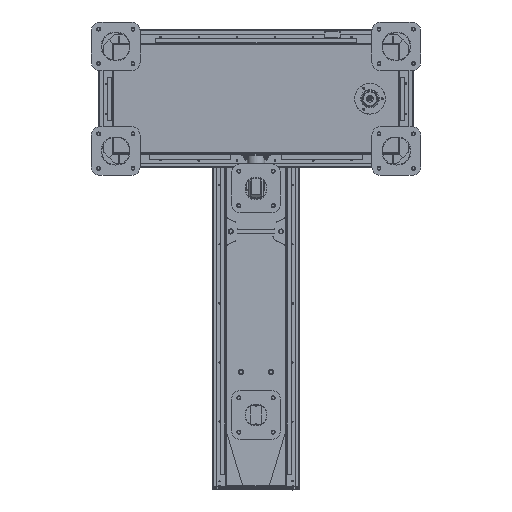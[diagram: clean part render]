
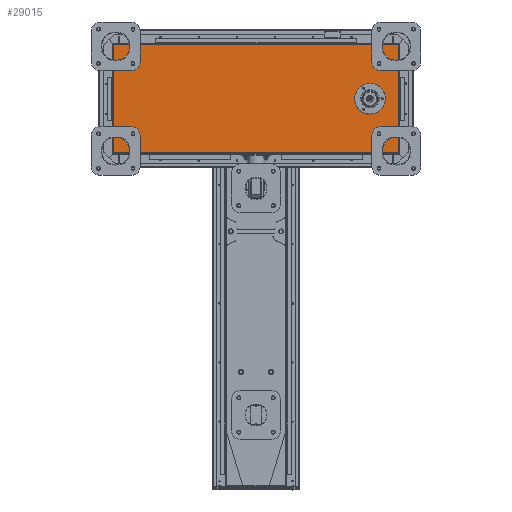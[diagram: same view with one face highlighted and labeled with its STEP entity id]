
A CAD part, front view. The second image highlights one B-rep face of the part: STEP entity #29015.
In plain terms, the highlighted planar face has unit normal (-0.018, -1, 0).
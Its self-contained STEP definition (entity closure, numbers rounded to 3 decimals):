
#74 = EDGE_LOOP ( 'NONE', ( #97794, #16340 ) ) ;
#2959 = CIRCLE ( 'NONE', #71801, 2.45 ) ;
#4845 = PLANE ( 'NONE',  #27759 ) ;
#6348 = DIRECTION ( 'NONE',  ( 0.017, 1., 0. ) ) ;
#6443 = VERTEX_POINT ( 'NONE', #111874 ) ;
#8103 = DIRECTION ( 'NONE',  ( 0.017, 1., 0. ) ) ;
#8562 = FACE_BOUND ( 'NONE', #76587, .T. ) ;
#10406 = CARTESIAN_POINT ( 'NONE',  ( 373.748, -160.243, 36.806 ) ) ;
#10487 = CARTESIAN_POINT ( 'NONE',  ( 437.489, -161.355, 0. ) ) ;
#10860 = DIRECTION ( 'NONE',  ( -1., 0.017, 0. ) ) ;
#11760 = CARTESIAN_POINT ( 'NONE',  ( 397.445, -160.656, 0. ) ) ;
#12829 = EDGE_LOOP ( 'NONE', ( #110544, #77114 ) ) ;
#13140 = CARTESIAN_POINT ( 'NONE',  ( 376.198, -160.285, 36.806 ) ) ;
#13293 = DIRECTION ( 'NONE',  ( -1., 0.017, 0. ) ) ;
#13816 = AXIS2_PLACEMENT_3D ( 'NONE', #49724, #8103, #94845 ) ;
#15215 = VERTEX_POINT ( 'NONE', #36706 ) ;
#16340 = ORIENTED_EDGE ( 'NONE', *, *, #53876, .T. ) ;
#16477 = AXIS2_PLACEMENT_3D ( 'NONE', #11760, #88791, #68217 ) ;
#16681 = ORIENTED_EDGE ( 'NONE', *, *, #42299, .F. ) ;
#16822 = LINE ( 'NONE', #122435, #36356 ) ;
#17802 = EDGE_CURVE ( 'NONE', #100472, #47032, #76137, .T. ) ;
#18074 = VERTEX_POINT ( 'NONE', #118280 ) ;
#18364 = EDGE_CURVE ( 'NONE', #15215, #74364, #54709, .T. ) ;
#19514 = DIRECTION ( 'NONE',  ( 0., 0., -1. ) ) ;
#19976 = EDGE_CURVE ( 'NONE', #37217, #68139, #45341, .T. ) ;
#20638 = LINE ( 'NONE', #115951, #120070 ) ;
#20952 = ORIENTED_EDGE ( 'NONE', *, *, #81157, .T. ) ;
#23893 = AXIS2_PLACEMENT_3D ( 'NONE', #119896, #33538, #62205 ) ;
#27295 = VERTEX_POINT ( 'NONE', #66083 ) ;
#27759 = AXIS2_PLACEMENT_3D ( 'NONE', #52453, #33892, #13293 ) ;
#29015 = ADVANCED_FACE ( 'NONE', ( #8562, #121527, #99005, #79328, #105011 ), #4845, .F. ) ;
#30621 = CARTESIAN_POINT ( 'NONE',  ( 376.198, -160.285, -36.806 ) ) ;
#33538 = DIRECTION ( 'NONE',  ( 0.017, 1., 0. ) ) ;
#33892 = DIRECTION ( 'NONE',  ( 0.017, 1., 0. ) ) ;
#36356 = VECTOR ( 'NONE', #56336, 1000. ) ;
#36380 = CIRCLE ( 'NONE', #89662, 30.25 ) ;
#36706 = CARTESIAN_POINT ( 'NONE',  ( 373.748, -160.243, -36.806 ) ) ;
#37217 = VERTEX_POINT ( 'NONE', #124791 ) ;
#38447 = EDGE_CURVE ( 'NONE', #68139, #37217, #56831, .T. ) ;
#39143 = CIRCLE ( 'NONE', #23893, 2.45 ) ;
#40457 = EDGE_CURVE ( 'NONE', #74364, #15215, #52378, .T. ) ;
#42077 = LINE ( 'NONE', #83359, #43512 ) ;
#42299 = EDGE_CURVE ( 'NONE', #18074, #92966, #43917, .T. ) ;
#43018 = DIRECTION ( 'NONE',  ( -1., 0.017, 0. ) ) ;
#43512 = VECTOR ( 'NONE', #93075, 1000. ) ;
#43917 = LINE ( 'NONE', #112926, #117764 ) ;
#45341 = CIRCLE ( 'NONE', #99196, 2.45 ) ;
#46717 = ORIENTED_EDGE ( 'NONE', *, *, #86391, .F. ) ;
#47032 = VERTEX_POINT ( 'NONE', #89423 ) ;
#48312 = CARTESIAN_POINT ( 'NONE',  ( 367.199, -160.128, 0. ) ) ;
#49286 = ORIENTED_EDGE ( 'NONE', *, *, #19976, .T. ) ;
#49724 = CARTESIAN_POINT ( 'NONE',  ( 376.198, -160.285, 36.806 ) ) ;
#50372 = CARTESIAN_POINT ( 'NONE',  ( 397.445, -160.656, 0. ) ) ;
#50703 = DIRECTION ( 'NONE',  ( 0.017, 1., 0. ) ) ;
#52378 = CIRCLE ( 'NONE', #85932, 2.45 ) ;
#52453 = CARTESIAN_POINT ( 'NONE',  ( 499.5, -162.438, 188. ) ) ;
#52707 = CARTESIAN_POINT ( 'NONE',  ( 439.938, -161.398, 0. ) ) ;
#53876 = EDGE_CURVE ( 'NONE', #27295, #85710, #2959, .T. ) ;
#54414 = EDGE_LOOP ( 'NONE', ( #20952, #16681, #46717, #70286 ) ) ;
#54709 = CIRCLE ( 'NONE', #60230, 2.45 ) ;
#56336 = DIRECTION ( 'NONE',  ( 1., -0.017, 0. ) ) ;
#56831 = CIRCLE ( 'NONE', #13816, 2.45 ) ;
#57164 = CARTESIAN_POINT ( 'NONE',  ( -495.57, -145.069, 188. ) ) ;
#59945 = EDGE_CURVE ( 'NONE', #47032, #100472, #36380, .T. ) ;
#60230 = AXIS2_PLACEMENT_3D ( 'NONE', #99636, #50703, #78925 ) ;
#62205 = DIRECTION ( 'NONE',  ( -1., 0.017, 0. ) ) ;
#65420 = ORIENTED_EDGE ( 'NONE', *, *, #38447, .T. ) ;
#66083 = CARTESIAN_POINT ( 'NONE',  ( 442.388, -161.441, 0. ) ) ;
#68139 = VERTEX_POINT ( 'NONE', #10406 ) ;
#68217 = DIRECTION ( 'NONE',  ( -1., 0.017, 0. ) ) ;
#70286 = ORIENTED_EDGE ( 'NONE', *, *, #87088, .T. ) ;
#71801 = AXIS2_PLACEMENT_3D ( 'NONE', #52707, #6348, #121703 ) ;
#74364 = VERTEX_POINT ( 'NONE', #78941 ) ;
#76137 = CIRCLE ( 'NONE', #16477, 30.25 ) ;
#76587 = EDGE_LOOP ( 'NONE', ( #114355, #117077 ) ) ;
#77114 = ORIENTED_EDGE ( 'NONE', *, *, #59945, .T. ) ;
#77948 = DIRECTION ( 'NONE',  ( -1., 0.017, 0. ) ) ;
#78925 = DIRECTION ( 'NONE',  ( -1., 0.017, 0. ) ) ;
#78941 = CARTESIAN_POINT ( 'NONE',  ( 378.648, -160.328, -36.806 ) ) ;
#79328 = FACE_BOUND ( 'NONE', #12829, .T. ) ;
#81157 = EDGE_CURVE ( 'NONE', #6443, #92966, #42077, .T. ) ;
#82180 = VERTEX_POINT ( 'NONE', #57164 ) ;
#83359 = CARTESIAN_POINT ( 'NONE',  ( 499.5, -162.438, -188. ) ) ;
#84243 = DIRECTION ( 'NONE',  ( 0., 0., -1. ) ) ;
#85710 = VERTEX_POINT ( 'NONE', #10487 ) ;
#85932 = AXIS2_PLACEMENT_3D ( 'NONE', #30621, #97225, #10860 ) ;
#86391 = EDGE_CURVE ( 'NONE', #82180, #18074, #16822, .T. ) ;
#87088 = EDGE_CURVE ( 'NONE', #82180, #6443, #20638, .T. ) ;
#88791 = DIRECTION ( 'NONE',  ( 0.017, 1., 0. ) ) ;
#89423 = CARTESIAN_POINT ( 'NONE',  ( 427.69, -161.184, 0. ) ) ;
#89662 = AXIS2_PLACEMENT_3D ( 'NONE', #50372, #121492, #77948 ) ;
#90199 = DIRECTION ( 'NONE',  ( 0.017, 1., 0. ) ) ;
#92966 = VERTEX_POINT ( 'NONE', #122738 ) ;
#93075 = DIRECTION ( 'NONE',  ( 1., -0.017, 0. ) ) ;
#94845 = DIRECTION ( 'NONE',  ( -1., 0.017, 0. ) ) ;
#97225 = DIRECTION ( 'NONE',  ( 0.017, 1., 0. ) ) ;
#97794 = ORIENTED_EDGE ( 'NONE', *, *, #102186, .T. ) ;
#99005 = FACE_BOUND ( 'NONE', #74, .T. ) ;
#99196 = AXIS2_PLACEMENT_3D ( 'NONE', #13140, #90199, #43018 ) ;
#99636 = CARTESIAN_POINT ( 'NONE',  ( 376.198, -160.285, -36.806 ) ) ;
#100472 = VERTEX_POINT ( 'NONE', #48312 ) ;
#102186 = EDGE_CURVE ( 'NONE', #85710, #27295, #39143, .T. ) ;
#105011 = FACE_OUTER_BOUND ( 'NONE', #54414, .T. ) ;
#110544 = ORIENTED_EDGE ( 'NONE', *, *, #17802, .T. ) ;
#111874 = CARTESIAN_POINT ( 'NONE',  ( -495.57, -145.069, -188. ) ) ;
#112926 = CARTESIAN_POINT ( 'NONE',  ( 495.43, -162.367, 188. ) ) ;
#114355 = ORIENTED_EDGE ( 'NONE', *, *, #18364, .T. ) ;
#115951 = CARTESIAN_POINT ( 'NONE',  ( -495.57, -145.069, 188. ) ) ;
#117077 = ORIENTED_EDGE ( 'NONE', *, *, #40457, .T. ) ;
#117764 = VECTOR ( 'NONE', #84243, 1000. ) ;
#118280 = CARTESIAN_POINT ( 'NONE',  ( 495.43, -162.367, 188. ) ) ;
#119896 = CARTESIAN_POINT ( 'NONE',  ( 439.938, -161.398, 0. ) ) ;
#120070 = VECTOR ( 'NONE', #19514, 1000. ) ;
#121492 = DIRECTION ( 'NONE',  ( 0.017, 1., 0. ) ) ;
#121527 = FACE_BOUND ( 'NONE', #122688, .T. ) ;
#121703 = DIRECTION ( 'NONE',  ( -1., 0.017, 0. ) ) ;
#122435 = CARTESIAN_POINT ( 'NONE',  ( 499.5, -162.438, 188. ) ) ;
#122688 = EDGE_LOOP ( 'NONE', ( #65420, #49286 ) ) ;
#122738 = CARTESIAN_POINT ( 'NONE',  ( 495.43, -162.367, -188. ) ) ;
#124791 = CARTESIAN_POINT ( 'NONE',  ( 378.648, -160.328, 36.806 ) ) ;
